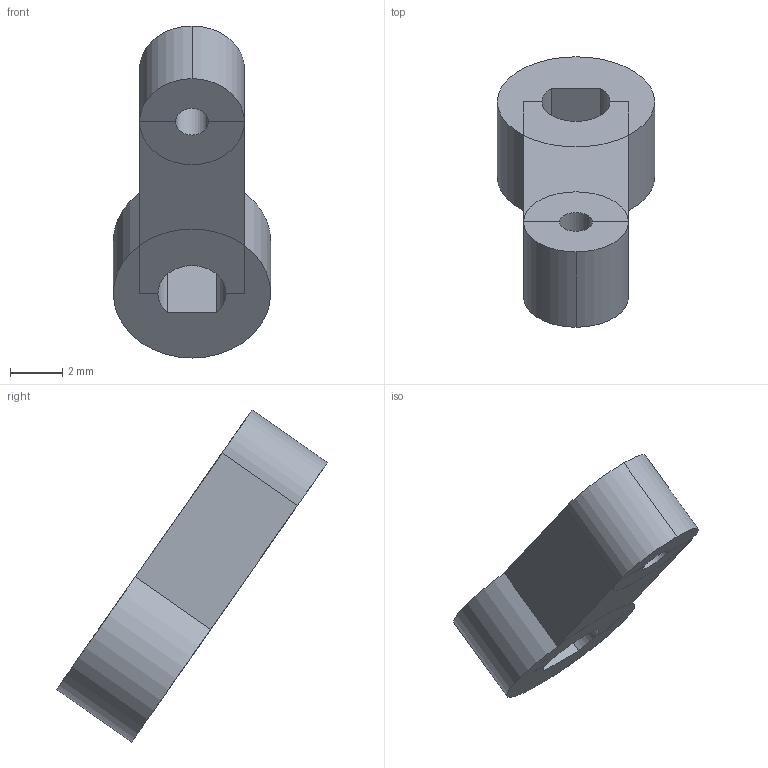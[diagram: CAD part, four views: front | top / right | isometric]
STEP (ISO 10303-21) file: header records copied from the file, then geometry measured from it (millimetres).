
FILE_DESCRIPTION(('SkyG Speed 90B - revision C6B-12 - 2026-10-11','THL-tail-horn-left'),'2;1');
FILE_NAME('THL-tail-horn-left_C6B-12','2026-10-11T16:48:44',('Author'),( 'Open CASCADE'),'Open CASCADE STEP processor 7.9','Open CASCADE 7.9' ,'Unknown');
FILE_SCHEMA(('AUTOMOTIVE_DESIGN { 1 0 10303 214 1 1 1 1 }'));
Length unit declared in the file: millimetre
Products named in the file (1): THL-tail-horn-left C6B-12
Bounding box: 6 x 10.32 x 12.66 mm (x, y, z)
Volume: 173.2 mm3; surface area: 253.6 mm2
Topology: 1 solids, 1 shells, 19 faces, 53 edges, 32 vertices
Faces by surface type: plane 13, cylinder 6
Full cylindrical faces by diameter (mm): 1.25 x1
Entity records: 1416 total; most frequent: CARTESIAN_POINT 403, DIRECTION 193, ORIENTED_EDGE 106, PCURVE 106, DEFINITIONAL_REPRESENTATION 106, LINE 101, VECTOR 101, EDGE_CURVE 53
